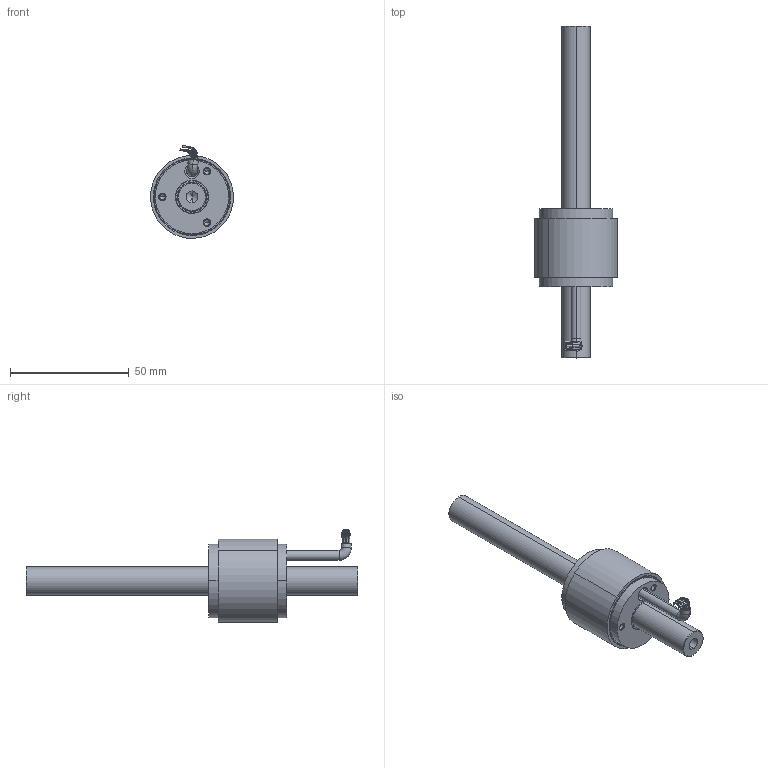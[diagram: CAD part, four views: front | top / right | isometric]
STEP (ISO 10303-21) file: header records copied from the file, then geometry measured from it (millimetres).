
FILE_DESCRIPTION (( 'STEP AP214' ), '1' );
FILE_NAME ('LinACE_d12_axial.STEP', '2020-06-24T06:11:55', ( '' ), ( '' ), 'SwSTEP 2.0', 'SolidWorks 2016', '' );
FILE_SCHEMA (( 'AUTOMOTIVE_DESIGN' ));
Length unit declared in the file: millimetre
Products named in the file (7): MN01537_02; d12_SMW; Pokrov; LinACE_d12_axial; Pu啾 d12 peek; Linace_RS422_V0_01; Cable
Assembly tree (6 placements, depth 2):
  LinACE_d12_axial
    MN01537_02
    Pokrov
    Cable
    Pu啾 d12 peek  x2
    d12_SMW
  Linace_RS422_V0_01
Bounding box: 34.98 x 140 x 39.12 mm (x, y, z)
Volume: 33138.5 mm3; surface area: 21941.5 mm2
Topology: 6 solids, 6 shells, 319 faces, 741 edges, 454 vertices
Faces by surface type: cylinder 151, plane 86, cone 66, bspline 14, torus 2
Entity records: 10174 total; most frequent: CARTESIAN_POINT 2784, DIRECTION 1566, ORIENTED_EDGE 1342, EDGE_CURVE 671, AXIS2_PLACEMENT_3D 632, VERTEX_POINT 426, EDGE_LOOP 347, CIRCLE 341
